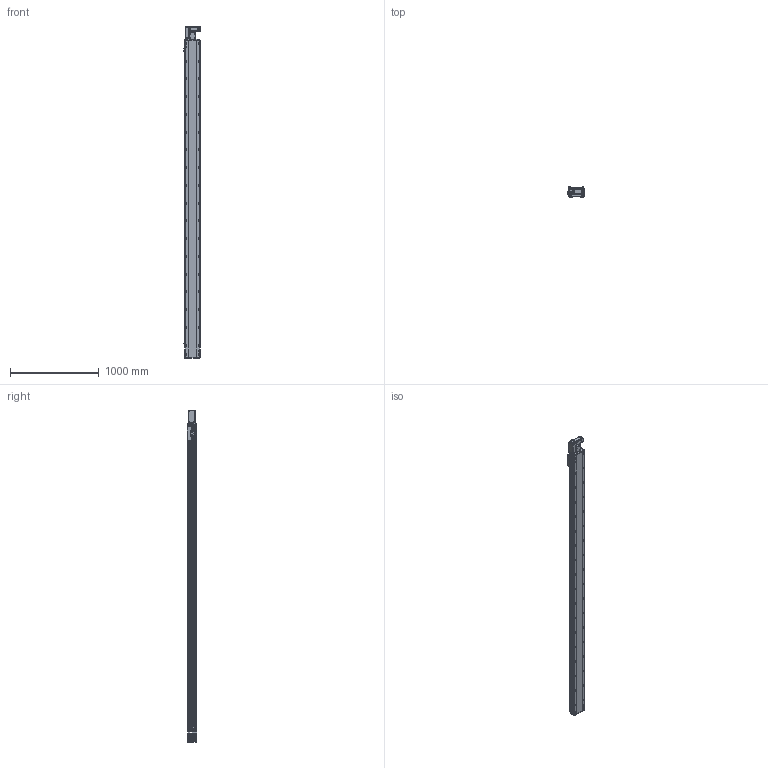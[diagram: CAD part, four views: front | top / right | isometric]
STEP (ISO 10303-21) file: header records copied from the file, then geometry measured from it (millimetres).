
FILE_DESCRIPTION (( 'STEP AP214' ), '1' );
FILE_NAME ('RTB17S-XX-3300-L-M40-C4.STEP', '2025-12-11T06:07:14', ( '' ), ( '' ), 'SwSTEP 2.0', 'SolidWorks 2018', '' );
FILE_SCHEMA (( 'AUTOMOTIVE_DESIGN' ));
Length unit declared in the file: millimetre
Products named in the file (14): RTB14-L-018P^RTB17S-L-々湍釱蚾饜-400W_RTB17S-XX-XX-L-M40-C4; 400W侜督萇儂^RTB17S-XX-XX-L-M40-C4; RTB17S-L-004佪裝蹟譫蟀諉釱^RTB17S-XX-XX-L-M40-C4; RTH13-BL-012覜茼え俋离^RTB17S-XX-XX-L-M40-C4; OMRON EE-SX672 传感器^RTB17S-XX-XX-L-M40-C4; RTB17S-L-001耜醱啣^RTB17S-XX-XX-L-M40-C4; RTB14-L-008-M20--萇儂啣^RTB17S-L-々湍釱蚾饜-400W_RTB17S-XX-XX-L-M40-C4; RTB17S-XX-3300-L-M40-C4; RTB17S-L-々湍釱蚾饜-400W^RTB17S-XX-XX-L-M40-C4; RTB17S-L-007奻裔^RTB17S-XX-XX-L-M40-C4; RTB14-L-017P^RTB17S-L-々湍釱蚾饜-400W_RTB17S-XX-XX-L-M40-C4; RMP17S-L-014-T20--々湍釱^RTB17S-L-々湍釱蚾饜-400W_RTB17S-XX-XX-L-M40-C4; RTB14-L-005P--轴承塑胶压盖^RTB17S-L-皮带座装配-400W_RTB17S-XX-XX-L-M40-C4; RTB17-R-011菁釱^RTB17S-XX-XX-L-M40-C4
Assembly tree (16 placements, depth 3):
  RTB17S-XX-3300-L-M40-C4
    RTB17-R-011菁釱^RTB17S-XX-XX-L-M40-C4
    RTB17S-L-007奻裔^RTB17S-XX-XX-L-M40-C4
    OMRON EE-SX672 传感器^RTB17S-XX-XX-L-M40-C4  x3
    RTB17S-L-001耜醱啣^RTB17S-XX-XX-L-M40-C4
    400W侜督萇儂^RTB17S-XX-XX-L-M40-C4
    RTB17S-L-004佪裝蹟譫蟀諉釱^RTB17S-XX-XX-L-M40-C4
    RTH13-BL-012覜茼え俋离^RTB17S-XX-XX-L-M40-C4
    RTB17S-L-々湍釱蚾饜-400W^RTB17S-XX-XX-L-M40-C4
      RMP17S-L-014-T20--々湍釱^RTB17S-L-々湍釱蚾饜-400W_RTB17S-XX-XX-L-M40-C4
      RTB14-L-005P--轴承塑胶压盖^RTB17S-L-皮带座装配-400W_RTB17S-XX-XX-L-M40-C4
      RTB14-L-008-M20--萇儂啣^RTB17S-L-々湍釱蚾饜-400W_RTB17S-XX-XX-L-M40-C4
      RTB14-L-017P^RTB17S-L-々湍釱蚾饜-400W_RTB17S-XX-XX-L-M40-C4  x2
      RTB14-L-018P^RTB17S-L-々湍釱蚾饜-400W_RTB17S-XX-XX-L-M40-C4
Bounding box: 186 x 108 x 3741 mm (x, y, z)
Volume: 31128025.1 mm3; surface area: 3544334.3 mm2
Topology: 15 solids, 15 shells, 2397 faces, 6735 edges, 4401 vertices
Faces by surface type: plane 1092, cylinder 857, bspline 301, cone 139, torus 8
Entity records: 71849 total; most frequent: CARTESIAN_POINT 20540, ORIENTED_EDGE 10314, DIRECTION 9476, EDGE_CURVE 5157, VERTEX_POINT 3389, AXIS2_PLACEMENT_3D 3319, VECTOR 2838, LINE 2838
